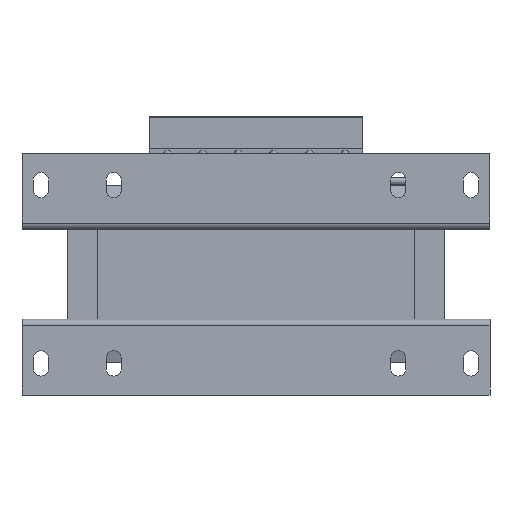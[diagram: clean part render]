
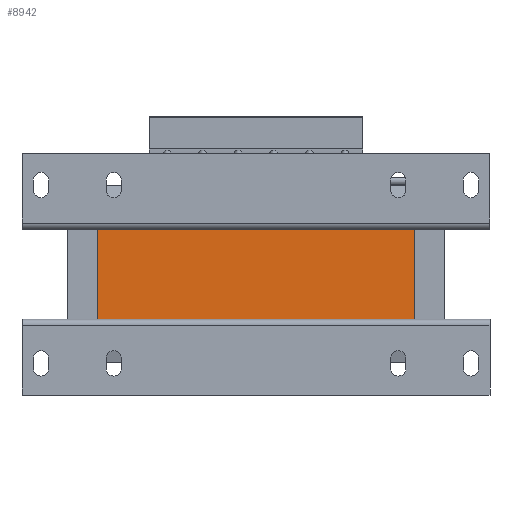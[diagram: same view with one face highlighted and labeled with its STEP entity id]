
A CAD part, front view. The second image highlights one B-rep face of the part: STEP entity #8942.
In plain terms, the highlighted planar face has unit normal (0, -1, 0).
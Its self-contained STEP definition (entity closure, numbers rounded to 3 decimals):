
#81 = EDGE_CURVE ( 'NONE', #14032, #1740, #4094, .T. ) ;
#129 = LINE ( 'NONE', #4716, #14573 ) ;
#629 = DIRECTION ( 'NONE',  ( 0., 0., -1. ) ) ;
#932 = ORIENTED_EDGE ( 'NONE', *, *, #9944, .F. ) ;
#1320 = ORIENTED_EDGE ( 'NONE', *, *, #13074, .F. ) ;
#1734 = AXIS2_PLACEMENT_3D ( 'NONE', #6437, #4060, #8588 ) ;
#1740 = VERTEX_POINT ( 'NONE', #10811 ) ;
#4060 = DIRECTION ( 'NONE',  ( 0., 1., 0. ) ) ;
#4094 = LINE ( 'NONE', #8777, #12509 ) ;
#4716 = CARTESIAN_POINT ( 'NONE',  ( -50., 6.5, 14.2 ) ) ;
#4720 = CARTESIAN_POINT ( 'NONE',  ( -50., 6.5, 14.2 ) ) ;
#5572 = VECTOR ( 'NONE', #11728, 1000. ) ;
#6340 = CARTESIAN_POINT ( 'NONE',  ( 50., 6.5, 14.2 ) ) ;
#6437 = CARTESIAN_POINT ( 'NONE',  ( -50., 6.5, 15.2 ) ) ;
#7062 = CARTESIAN_POINT ( 'NONE',  ( 50., 6.5, -14.2 ) ) ;
#8409 = LINE ( 'NONE', #10684, #5572 ) ;
#8588 = DIRECTION ( 'NONE',  ( 0., 0., 1. ) ) ;
#8697 = ORIENTED_EDGE ( 'NONE', *, *, #81, .T. ) ;
#8777 = CARTESIAN_POINT ( 'NONE',  ( -50., 6.5, 15.2 ) ) ;
#8942 = ADVANCED_FACE ( 'NONE', ( #14188 ), #14124, .F. ) ;
#9441 = CARTESIAN_POINT ( 'NONE',  ( 50., 6.5, 15.2 ) ) ;
#9505 = LINE ( 'NONE', #9441, #11650 ) ;
#9521 = VERTEX_POINT ( 'NONE', #6340 ) ;
#9944 = EDGE_CURVE ( 'NONE', #9521, #11117, #9505, .T. ) ;
#10684 = CARTESIAN_POINT ( 'NONE',  ( -50., 6.5, -14.2 ) ) ;
#10811 = CARTESIAN_POINT ( 'NONE',  ( -50., 6.5, -14.2 ) ) ;
#11117 = VERTEX_POINT ( 'NONE', #7062 ) ;
#11524 = DIRECTION ( 'NONE',  ( 1., 0., 0. ) ) ;
#11650 = VECTOR ( 'NONE', #11791, 1000. ) ;
#11728 = DIRECTION ( 'NONE',  ( 1., 0., 0. ) ) ;
#11791 = DIRECTION ( 'NONE',  ( 0., 0., -1. ) ) ;
#12043 = EDGE_CURVE ( 'NONE', #1740, #11117, #8409, .T. ) ;
#12509 = VECTOR ( 'NONE', #629, 1000. ) ;
#12519 = EDGE_LOOP ( 'NONE', ( #932, #1320, #8697, #13339 ) ) ;
#13074 = EDGE_CURVE ( 'NONE', #14032, #9521, #129, .T. ) ;
#13339 = ORIENTED_EDGE ( 'NONE', *, *, #12043, .T. ) ;
#14032 = VERTEX_POINT ( 'NONE', #4720 ) ;
#14124 = PLANE ( 'NONE',  #1734 ) ;
#14188 = FACE_OUTER_BOUND ( 'NONE', #12519, .T. ) ;
#14573 = VECTOR ( 'NONE', #11524, 1000. ) ;
